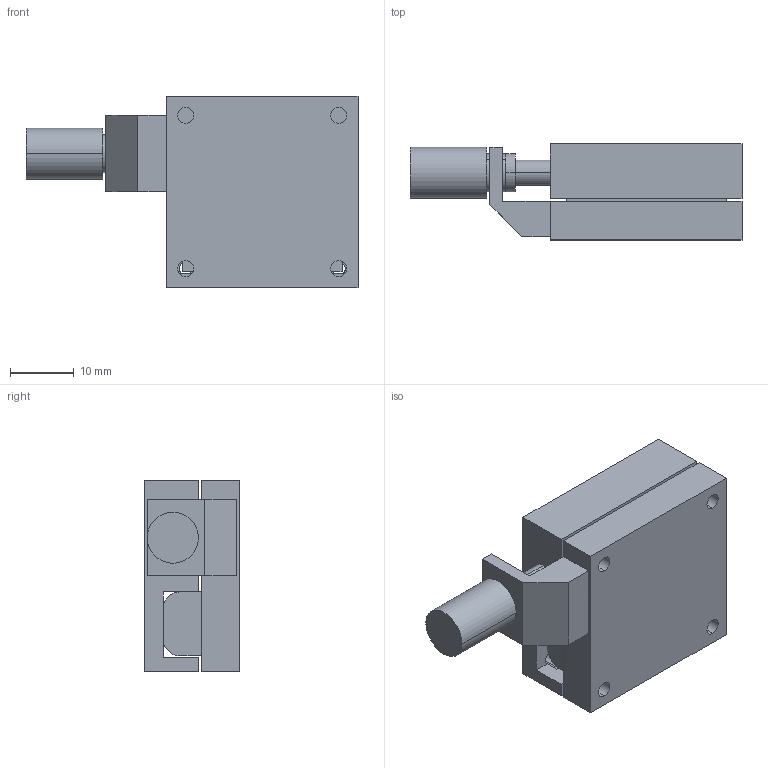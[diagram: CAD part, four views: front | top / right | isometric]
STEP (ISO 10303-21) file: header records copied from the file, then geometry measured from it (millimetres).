
FILE_DESCRIPTION (( 'STEP AP203' ), '1' );
FILE_NAME ('SRS-1.STEP', '2021-10-05T03:59:38', ( '' ), ( '' ), 'SwSTEP 2.0', 'SolidWorks 2016', '' );
FILE_SCHEMA (( 'CONFIG_CONTROL_DESIGN' ));
Length unit declared in the file: millimetre
Products named in the file (3): SRS-1-1; SRS-1-2; SRS-1
Assembly tree (2 placements, depth 2):
  SRS-1
    SRS-1-1
    SRS-1-2
Bounding box: 52 x 15 x 30 mm (x, y, z)
Volume: 13735.6 mm3; surface area: 7929.4 mm2
Topology: 7 solids, 7 shells, 132 faces, 317 edges, 200 vertices
Faces by surface type: cylinder 66, plane 54, cone 12
Entity records: 4130 total; most frequent: DIRECTION 721, CARTESIAN_POINT 642, ORIENTED_EDGE 610, EDGE_CURVE 305, AXIS2_PLACEMENT_3D 279, VERTEX_POINT 200, EDGE_LOOP 167, LINE 163
